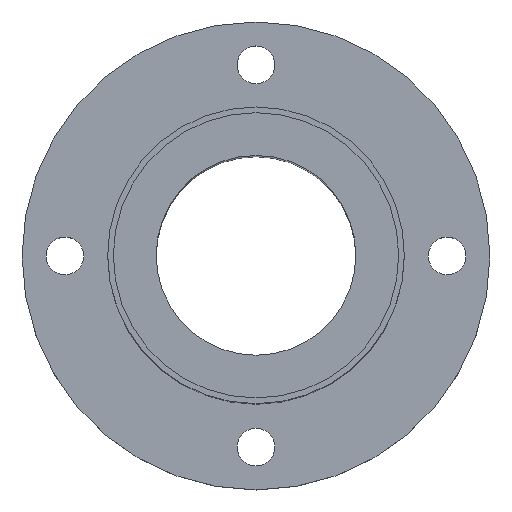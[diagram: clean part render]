
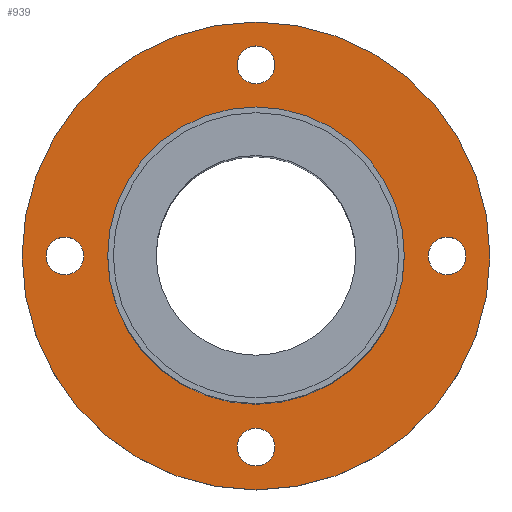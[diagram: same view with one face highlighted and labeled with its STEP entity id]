
A CAD part, top view. The second image highlights one B-rep face of the part: STEP entity #939.
In plain terms, the highlighted planar face has unit normal (0, 0, 1).
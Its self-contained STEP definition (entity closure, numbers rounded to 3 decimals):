
#49=CARTESIAN_POINT('',(-28.799,9.056,72.5));
#50=VERTEX_POINT('',#49);
#59=CARTESIAN_POINT('',(23.201,9.056,72.5));
#60=VERTEX_POINT('',#59);
#61=CARTESIAN_POINT('',(-2.799,9.056,72.5));
#62=DIRECTION('',(0.0,0.0,1.0));
#63=DIRECTION('',(-1.0,0.0,0.0));
#64=AXIS2_PLACEMENT_3D('',#61,#62,#63);
#65=CIRCLE('',#64,26.0);
#66=EDGE_CURVE('',#50,#60,#65,.T.);
#259=CARTESIAN_POINT('',(-43.799,9.056,72.5));
#260=VERTEX_POINT('',#259);
#269=CARTESIAN_POINT('',(38.201,9.056,72.5));
#270=VERTEX_POINT('',#269);
#271=CARTESIAN_POINT('',(-2.799,9.056,72.5));
#272=DIRECTION('',(0.0,0.0,-1.0));
#273=DIRECTION('',(-1.0,0.0,0.0));
#274=AXIS2_PLACEMENT_3D('',#271,#272,#273);
#275=CIRCLE('',#274,41.);
#276=EDGE_CURVE('',#260,#270,#275,.T.);
#301=CARTESIAN_POINT('',(34.001,9.056,72.5));
#302=VERTEX_POINT('',#301);
#311=CARTESIAN_POINT('',(27.401,9.056,72.5));
#312=VERTEX_POINT('',#311);
#313=CARTESIAN_POINT('',(30.701,9.056,72.5));
#314=DIRECTION('',(0.0,0.0,-1.0));
#315=DIRECTION('',(1.0,0.0,0.0));
#316=AXIS2_PLACEMENT_3D('',#313,#314,#315);
#317=CIRCLE('',#316,3.3);
#318=EDGE_CURVE('',#312,#302,#317,.T.);
#385=CARTESIAN_POINT('',(-2.799,-27.744,72.5));
#386=VERTEX_POINT('',#385);
#395=CARTESIAN_POINT('',(-2.799,-21.144,72.5));
#396=VERTEX_POINT('',#395);
#397=CARTESIAN_POINT('',(-2.799,-24.444,72.5));
#398=DIRECTION('',(0.0,0.0,-1.0));
#399=DIRECTION('',(0.0,-1.0,0.0));
#400=AXIS2_PLACEMENT_3D('',#397,#398,#399);
#401=CIRCLE('',#400,3.3);
#402=EDGE_CURVE('',#396,#386,#401,.T.);
#469=CARTESIAN_POINT('',(-39.599,9.056,72.5));
#470=VERTEX_POINT('',#469);
#479=CARTESIAN_POINT('',(-32.999,9.056,72.5));
#480=VERTEX_POINT('',#479);
#481=CARTESIAN_POINT('',(-36.299,9.056,72.5));
#482=DIRECTION('',(0.0,0.0,-1.0));
#483=DIRECTION('',(-1.0,0.0,0.0));
#484=AXIS2_PLACEMENT_3D('',#481,#482,#483);
#485=CIRCLE('',#484,3.3);
#486=EDGE_CURVE('',#480,#470,#485,.T.);
#553=CARTESIAN_POINT('',(-2.799,45.856,72.5));
#554=VERTEX_POINT('',#553);
#563=CARTESIAN_POINT('',(-2.799,39.256,72.5));
#564=VERTEX_POINT('',#563);
#565=CARTESIAN_POINT('',(-2.799,42.556,72.5));
#566=DIRECTION('',(0.0,0.0,-1.0));
#567=DIRECTION('',(0.0,1.0,0.0));
#568=AXIS2_PLACEMENT_3D('',#565,#566,#567);
#569=CIRCLE('',#568,3.3);
#570=EDGE_CURVE('',#564,#554,#569,.T.);
#684=CARTESIAN_POINT('',(-2.799,42.556,72.5));
#685=DIRECTION('',(0.0,0.0,-1.0));
#686=DIRECTION('',(0.0,1.0,0.0));
#687=AXIS2_PLACEMENT_3D('',#684,#685,#686);
#688=CIRCLE('',#687,3.3);
#689=EDGE_CURVE('',#554,#564,#688,.T.);
#746=CARTESIAN_POINT('',(-36.299,9.056,72.5));
#747=DIRECTION('',(0.0,0.0,-1.0));
#748=DIRECTION('',(-1.0,0.0,0.0));
#749=AXIS2_PLACEMENT_3D('',#746,#747,#748);
#750=CIRCLE('',#749,3.3);
#751=EDGE_CURVE('',#470,#480,#750,.T.);
#808=CARTESIAN_POINT('',(-2.799,-24.444,72.5));
#809=DIRECTION('',(0.0,0.0,-1.0));
#810=DIRECTION('',(0.0,-1.0,0.0));
#811=AXIS2_PLACEMENT_3D('',#808,#809,#810);
#812=CIRCLE('',#811,3.3);
#813=EDGE_CURVE('',#386,#396,#812,.T.);
#870=CARTESIAN_POINT('',(30.701,9.056,72.5));
#871=DIRECTION('',(0.0,0.0,-1.0));
#872=DIRECTION('',(1.0,0.0,0.0));
#873=AXIS2_PLACEMENT_3D('',#870,#871,#872);
#874=CIRCLE('',#873,3.3);
#875=EDGE_CURVE('',#302,#312,#874,.T.);
#894=CARTESIAN_POINT('',(-2.799,9.056,72.5));
#895=DIRECTION('',(0.0,0.0,-1.0));
#896=DIRECTION('',(-1.0,0.0,0.0));
#897=AXIS2_PLACEMENT_3D('',#894,#895,#896);
#898=CIRCLE('',#897,41.);
#899=EDGE_CURVE('',#270,#260,#898,.T.);
#904=CARTESIAN_POINT('',(-2.799,9.056,72.5));
#905=DIRECTION('',(0.0,0.0,-1.0));
#906=DIRECTION('',(-1.0,0.0,0.0));
#907=AXIS2_PLACEMENT_3D('',#904,#905,#906);
#908=PLANE('',#907);
#909=ORIENTED_EDGE('',*,*,#899,.F.);
#910=ORIENTED_EDGE('',*,*,#276,.F.);
#911=EDGE_LOOP('',(#909,#910));
#912=FACE_OUTER_BOUND('',#911,.T.);
#913=ORIENTED_EDGE('',*,*,#570,.T.);
#914=ORIENTED_EDGE('',*,*,#689,.T.);
#915=EDGE_LOOP('',(#913,#914));
#916=FACE_BOUND('',#915,.T.);
#917=ORIENTED_EDGE('',*,*,#486,.T.);
#918=ORIENTED_EDGE('',*,*,#751,.T.);
#919=EDGE_LOOP('',(#917,#918));
#920=FACE_BOUND('',#919,.T.);
#921=ORIENTED_EDGE('',*,*,#402,.T.);
#922=ORIENTED_EDGE('',*,*,#813,.T.);
#923=EDGE_LOOP('',(#921,#922));
#924=FACE_BOUND('',#923,.T.);
#925=ORIENTED_EDGE('',*,*,#318,.T.);
#926=ORIENTED_EDGE('',*,*,#875,.T.);
#927=EDGE_LOOP('',(#925,#926));
#928=FACE_BOUND('',#927,.T.);
#929=CARTESIAN_POINT('',(-2.799,9.056,72.5));
#930=DIRECTION('',(0.0,0.0,1.0));
#931=DIRECTION('',(-1.0,0.0,0.0));
#932=AXIS2_PLACEMENT_3D('',#929,#930,#931);
#933=CIRCLE('',#932,26.0);
#934=EDGE_CURVE('',#60,#50,#933,.T.);
#935=ORIENTED_EDGE('',*,*,#934,.F.);
#936=ORIENTED_EDGE('',*,*,#66,.F.);
#937=EDGE_LOOP('',(#935,#936));
#938=FACE_BOUND('',#937,.T.);
#939=ADVANCED_FACE('',(#912,#916,#920,#924,#928,#938),#908,.F.);
